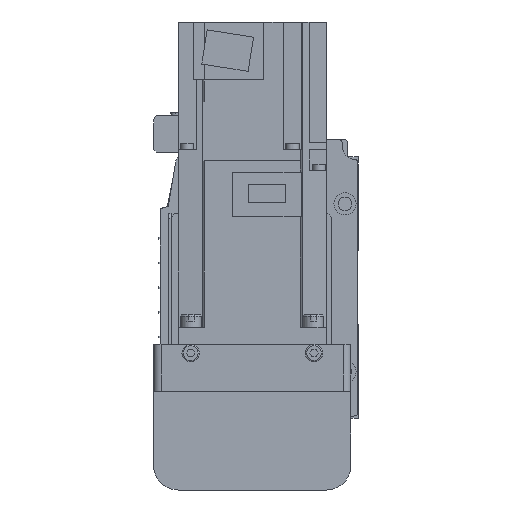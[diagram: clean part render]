
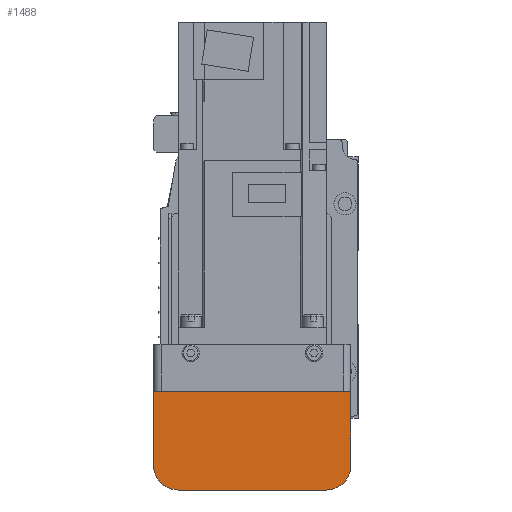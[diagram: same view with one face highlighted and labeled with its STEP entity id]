
A CAD part, left-side view. The second image highlights one B-rep face of the part: STEP entity #1488.
In plain terms, the highlighted planar face has unit normal (-1, 0, 0).
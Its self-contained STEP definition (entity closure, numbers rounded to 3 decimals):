
#1488 = ADVANCED_FACE( '', ( #3342 ), #3343, .F. );
#3342 = FACE_OUTER_BOUND( '', #5614, .T. );
#3343 = PLANE( '', #5615 );
#5614 = EDGE_LOOP( '', ( #9825, #9826, #9827, #9828, #9829, #9830 ) );
#5615 = AXIS2_PLACEMENT_3D( '', #9831, #9832, #9833 );
#9825 = ORIENTED_EDGE( '', *, *, #14682, .F. );
#9826 = ORIENTED_EDGE( '', *, *, #14683, .F. );
#9827 = ORIENTED_EDGE( '', *, *, #14676, .F. );
#9828 = ORIENTED_EDGE( '', *, *, #14450, .F. );
#9829 = ORIENTED_EDGE( '', *, *, #14684, .F. );
#9830 = ORIENTED_EDGE( '', *, *, #14080, .F. );
#9831 = CARTESIAN_POINT( '', ( -192., 37., 7. ) );
#9832 = DIRECTION( '', ( 1., 0., 0. ) );
#9833 = DIRECTION( '', ( 0., 0., -1. ) );
#14080 = EDGE_CURVE( '', #17237, #17239, #17240, .T. );
#14450 = EDGE_CURVE( '', #17806, #17808, #17809, .T. );
#14676 = EDGE_CURVE( '', #17808, #18121, #18122, .T. );
#14682 = EDGE_CURVE( '', #16886, #17237, #18129, .T. );
#14683 = EDGE_CURVE( '', #18121, #16886, #18130, .T. );
#14684 = EDGE_CURVE( '', #17239, #17806, #18131, .T. );
#16886 = VERTEX_POINT( '', #20945 );
#17237 = VERTEX_POINT( '', #21429 );
#17239 = VERTEX_POINT( '', #21432 );
#17240 = LINE( '', #21433, #21434 );
#17806 = VERTEX_POINT( '', #22183 );
#17808 = VERTEX_POINT( '', #22186 );
#17809 = LINE( '', #22187, #22188 );
#18121 = VERTEX_POINT( '', #22617 );
#18122 = CIRCLE( '', #22618, 10. );
#18129 = LINE( '', #22627, #22628 );
#18130 = LINE( '', #22629, #22630 );
#18131 = CIRCLE( '', #22631, 10. );
#20945 = CARTESIAN_POINT( '', ( -192., 40., -12.1 ) );
#21429 = CARTESIAN_POINT( '', ( -192., -40., -12.1 ) );
#21432 = CARTESIAN_POINT( '', ( -192., -40., -42. ) );
#21433 = CARTESIAN_POINT( '', ( -192., -40., -12.1 ) );
#21434 = VECTOR( '', #25182, 1000. );
#22183 = CARTESIAN_POINT( '', ( -192., -30., -52. ) );
#22186 = CARTESIAN_POINT( '', ( -192., 30., -52. ) );
#22187 = CARTESIAN_POINT( '', ( -192., -30., -52. ) );
#22188 = VECTOR( '', #25667, 1000. );
#22617 = CARTESIAN_POINT( '', ( -192., 40., -42. ) );
#22618 = AXIS2_PLACEMENT_3D( '', #25935, #25936, #25937 );
#22627 = CARTESIAN_POINT( '', ( -192., 50., -12.1 ) );
#22628 = VECTOR( '', #25943, 1000. );
#22629 = CARTESIAN_POINT( '', ( -192., 40., -42. ) );
#22630 = VECTOR( '', #25944, 1000. );
#22631 = AXIS2_PLACEMENT_3D( '', #25945, #25946, #25947 );
#25182 = DIRECTION( '', ( 0., 0., -1. ) );
#25667 = DIRECTION( '', ( 0., 1., 0. ) );
#25935 = CARTESIAN_POINT( '', ( -192., 30., -42. ) );
#25936 = DIRECTION( '', ( 1., 0., 0. ) );
#25937 = DIRECTION( '', ( 0., 0., -1. ) );
#25943 = DIRECTION( '', ( 0., -1., 0. ) );
#25944 = DIRECTION( '', ( 0., 0., 1. ) );
#25945 = CARTESIAN_POINT( '', ( -192., -30., -42. ) );
#25946 = DIRECTION( '', ( 1., 0., 0. ) );
#25947 = DIRECTION( '', ( 0., 0., -1. ) );
